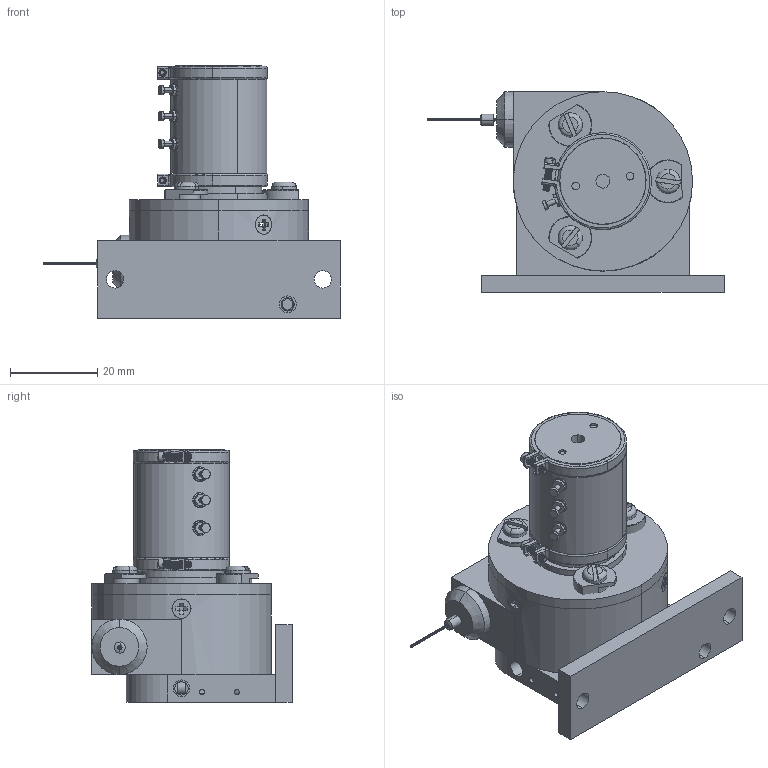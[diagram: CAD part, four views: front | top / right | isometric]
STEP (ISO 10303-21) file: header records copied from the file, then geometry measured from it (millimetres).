
FILE_DESCRIPTION (( 'STEP AP214' ), '1' );
FILE_NAME ('160 SERIES-GUIDE-NO SENSOR COVER.STEP', '2016-12-09T16:18:44', ( 'setup' ), ( '' ), 'SwSTEP 2.0', 'SolidWorks 2015', '' );
FILE_SCHEMA (( 'AUTOMOTIVE_DESIGN' ));
Length unit declared in the file: inch
Products named in the file (2): 160 SERIES-GUIDE-NO SENSOR COVER
Bounding box: 67.97 x 45.97 x 57.96 mm (x, y, z)
Surface area: 16777.5 mm2 (no closed solid volume)
Topology: 0 solids, 60 shells, 577 faces, 2356 edges, 1831 vertices
Faces by surface type: plane 221, cylinder 192, bspline 79, torus 47, cone 34, sphere 4
Entity records: 59110 total; most frequent: CARTESIAN_POINT 33965, ORIENTED_EDGE 3441, DIRECTION 3112, EDGE_CURVE 2350, VERTEX_POINT 1831, VECTOR 1154, LINE 1154, AXIS2_PLACEMENT_3D 979
